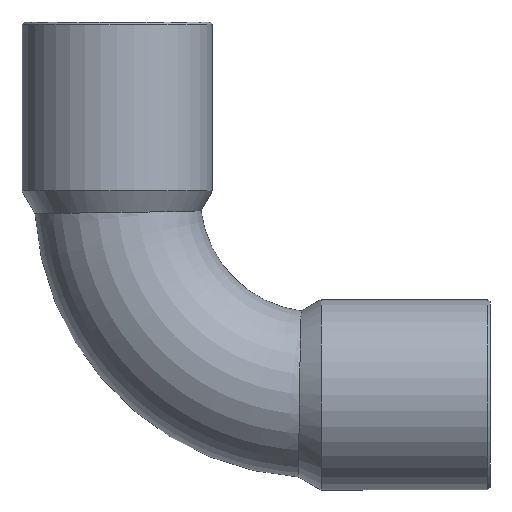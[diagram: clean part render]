
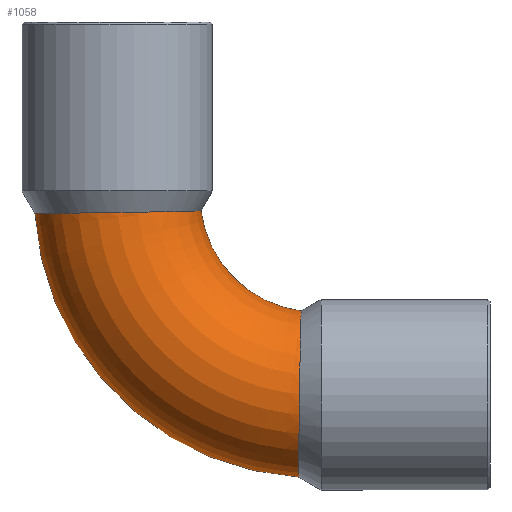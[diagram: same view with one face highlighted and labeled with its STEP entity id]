
A CAD part, front view. The second image highlights one B-rep face of the part: STEP entity #1058.
In plain terms, the highlighted toroidal (fillet/blend) face has major radius 9.6 mm and minor radius 4 mm.
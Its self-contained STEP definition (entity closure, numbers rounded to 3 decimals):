
#49=CARTESIAN_POINT('',(8.461,0.,-0.846));
#50=VERTEX_POINT('',#49);
#51=CARTESIAN_POINT('',(21.189,0.,-13.574));
#52=VERTEX_POINT('',#51);
#53=CARTESIAN_POINT('',(22.035,0.,0.0));
#54=DIRECTION('',(0.0,-1.0,0.0));
#55=DIRECTION('',(0.0,0.0,-1.0));
#56=AXIS2_PLACEMENT_3D('',#53,#54,#55);
#57=CIRCLE('',#56,13.6);
#58=EDGE_CURVE('',#50,#52,#57,.T.);
#60=CARTESIAN_POINT('',(16.481,0.,-0.72));
#61=VERTEX_POINT('',#60);
#85=CARTESIAN_POINT('',(21.315,0.,-5.554));
#86=VERTEX_POINT('',#85);
#87=CARTESIAN_POINT('',(22.035,0.,0.0));
#88=DIRECTION('',(0.0,1.0,0.0));
#89=DIRECTION('',(0.0,0.0,-1.0));
#90=AXIS2_PLACEMENT_3D('',#87,#88,#89);
#91=CIRCLE('',#90,5.6);
#92=EDGE_CURVE('',#86,#61,#91,.T.);
#224=CARTESIAN_POINT('',(16.481,0.,-0.72));
#225=CARTESIAN_POINT('',(16.481,-0.034,-0.72));
#226=CARTESIAN_POINT('',(16.481,-0.068,-0.72));
#227=CARTESIAN_POINT('',(16.467,-0.622,-0.72));
#228=CARTESIAN_POINT('',(16.352,-1.133,-0.723));
#229=CARTESIAN_POINT('',(15.931,-2.087,-0.734));
#230=CARTESIAN_POINT('',(15.629,-2.519,-0.742));
#231=CARTESIAN_POINT('',(14.874,-3.243,-0.758));
#232=CARTESIAN_POINT('',(14.429,-3.528,-0.767));
#233=CARTESIAN_POINT('',(13.456,-3.912,-0.785));
#234=CARTESIAN_POINT('',(12.936,-4.007,-0.793));
#235=CARTESIAN_POINT('',(11.89,-3.992,-0.808));
#236=CARTESIAN_POINT('',(11.374,-3.883,-0.815));
#237=CARTESIAN_POINT('',(10.414,-3.474,-0.826));
#238=CARTESIAN_POINT('',(9.979,-3.178,-0.831));
#239=CARTESIAN_POINT('',(9.248,-2.436,-0.838));
#240=CARTESIAN_POINT('',(8.958,-1.998,-0.841));
#241=CARTESIAN_POINT('',(8.563,-1.035,-0.845));
#242=CARTESIAN_POINT('',(8.461,-0.52,-0.846));
#243=CARTESIAN_POINT('',(8.461,0.,-0.846));
#244=B_SPLINE_CURVE_WITH_KNOTS('',3,(#224,#225,#226,#227,#228,#229,#230,#231,#232,#233,#234,#235,#236,#237,#238,#239,#240,#241,#242,#243),.UNSPECIFIED.,.F.,.U.,(4,2,2,2,2,2,2,2,2,4),(-1.262,-1.252,-1.096,-0.939,-0.782,-0.625,-0.469,-0.312,-0.156,0.0),.UNSPECIFIED.);
#245=EDGE_CURVE('',#61,#50,#244,.T.);
#1025=CARTESIAN_POINT('',(22.035,0.,0.0));
#1026=DIRECTION('',(0.0,-1.0,0.0));
#1027=DIRECTION('',(0.0,0.0,-1.0));
#1028=AXIS2_PLACEMENT_3D('',#1025,#1026,#1027);
#1029=TOROIDAL_SURFACE('',#1028,9.6,4.0);
#1030=ORIENTED_EDGE('',*,*,#58,.T.);
#1031=CARTESIAN_POINT('',(21.189,0.,-13.574));
#1032=CARTESIAN_POINT('',(21.189,-0.295,-13.574));
#1033=CARTESIAN_POINT('',(21.19,-0.588,-13.541));
#1034=CARTESIAN_POINT('',(21.191,-1.163,-13.412));
#1035=CARTESIAN_POINT('',(21.192,-1.443,-13.316));
#1036=CARTESIAN_POINT('',(21.195,-2.18,-12.967));
#1037=CARTESIAN_POINT('',(21.198,-2.603,-12.654));
#1038=CARTESIAN_POINT('',(21.206,-3.306,-11.883));
#1039=CARTESIAN_POINT('',(21.211,-3.579,-11.432));
#1040=CARTESIAN_POINT('',(21.223,-3.937,-10.449));
#1041=CARTESIAN_POINT('',(21.23,-4.018,-9.927));
#1042=CARTESIAN_POINT('',(21.245,-3.976,-8.881));
#1043=CARTESIAN_POINT('',(21.254,-3.852,-8.367));
#1044=CARTESIAN_POINT('',(21.271,-3.417,-7.416));
#1045=CARTESIAN_POINT('',(21.28,-3.108,-6.988));
#1046=CARTESIAN_POINT('',(21.296,-2.347,-6.277));
#1047=CARTESIAN_POINT('',(21.303,-1.902,-5.999));
#1048=CARTESIAN_POINT('',(21.313,-0.964,-5.642));
#1049=CARTESIAN_POINT('',(21.315,-0.484,-5.554));
#1050=CARTESIAN_POINT('',(21.315,0.,-5.554));
#1051=B_SPLINE_CURVE_WITH_KNOTS('',3,(#1031,#1032,#1033,#1034,#1035,#1036,#1037,#1038,#1039,#1040,#1041,#1042,#1043,#1044,#1045,#1046,#1047,#1048,#1049,#1050),.UNSPECIFIED.,.F.,.U.,(4,2,2,2,2,2,2,2,2,4),(-2.524,-2.436,-2.347,-2.191,-2.034,-1.877,-1.72,-1.563,-1.407,-1.262),.UNSPECIFIED.);
#1052=EDGE_CURVE('',#52,#86,#1051,.T.);
#1053=ORIENTED_EDGE('',*,*,#1052,.T.);
#1054=ORIENTED_EDGE('',*,*,#92,.T.);
#1055=ORIENTED_EDGE('',*,*,#245,.T.);
#1056=EDGE_LOOP('',(#1030,#1053,#1054,#1055));
#1057=FACE_OUTER_BOUND('',#1056,.T.);
#1058=ADVANCED_FACE('',(#1057),#1029,.T.);
